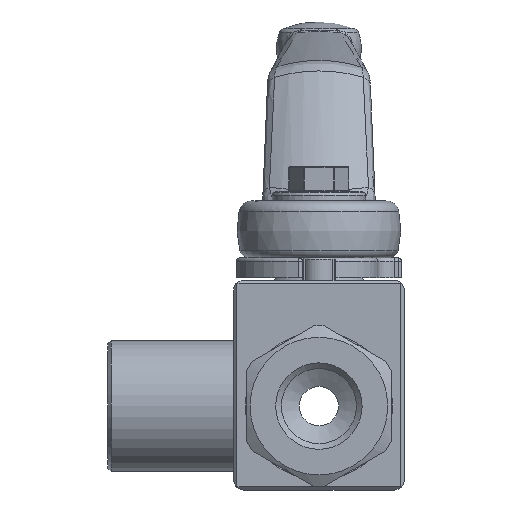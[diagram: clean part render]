
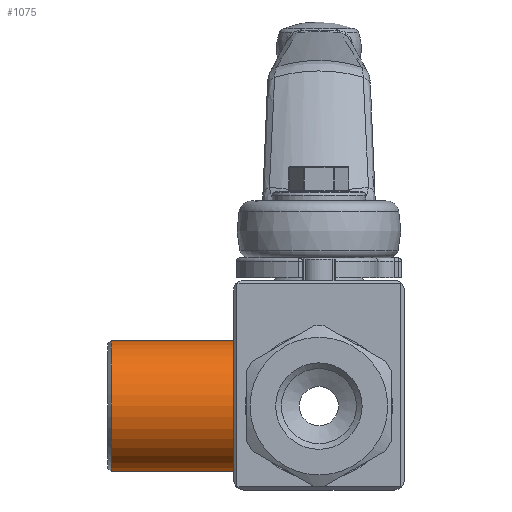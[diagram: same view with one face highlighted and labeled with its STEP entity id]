
A CAD part, front view. The second image highlights one B-rep face of the part: STEP entity #1075.
In plain terms, the highlighted cylindrical face has radius 10 mm (diameter 20 mm), a full revolution.
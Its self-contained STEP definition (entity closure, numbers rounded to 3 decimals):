
#1075 = ADVANCED_FACE( '', ( #2199, #2200 ), #2201, .T. );
#2199 = FACE_OUTER_BOUND( '', #4256, .T. );
#2200 = FACE_OUTER_BOUND( '', #4257, .T. );
#2201 = CYLINDRICAL_SURFACE( '', #4258, 10. );
#4256 = EDGE_LOOP( '', ( #6993 ) );
#4257 = EDGE_LOOP( '', ( #6994 ) );
#4258 = AXIS2_PLACEMENT_3D( '', #6995, #6996, #6997 );
#6993 = ORIENTED_EDGE( '', *, *, #9115, .T. );
#6994 = ORIENTED_EDGE( '', *, *, #8859, .T. );
#6995 = CARTESIAN_POINT( '', ( 0., -11., 0. ) );
#6996 = DIRECTION( '', ( 0., -1., 0. ) );
#6997 = DIRECTION( '', ( 0., 0., 1. ) );
#8859 = EDGE_CURVE( '', #10526, #10526, #10527, .F. );
#9115 = EDGE_CURVE( '', #10856, #10856, #10857, .T. );
#10526 = VERTEX_POINT( '', #13489 );
#10527 = CIRCLE( '', #13490, 10. );
#10856 = VERTEX_POINT( '', #14073 );
#10857 = CIRCLE( '', #14074, 10. );
#13489 = CARTESIAN_POINT( '', ( 0., 9.2, -10. ) );
#13490 = AXIS2_PLACEMENT_3D( '', #15554, #15555, #15556 );
#14073 = CARTESIAN_POINT( '', ( 0., -10.5, 10. ) );
#14074 = AXIS2_PLACEMENT_3D( '', #15856, #15857, #15858 );
#15554 = CARTESIAN_POINT( '', ( 0., 9.2, 0. ) );
#15555 = DIRECTION( '', ( 0., 1., 0. ) );
#15556 = DIRECTION( '', ( 0., 0., -1. ) );
#15856 = CARTESIAN_POINT( '', ( 0., -10.5, 0. ) );
#15857 = DIRECTION( '', ( 0., 1., 0. ) );
#15858 = DIRECTION( '', ( 0., 0., 1. ) );
